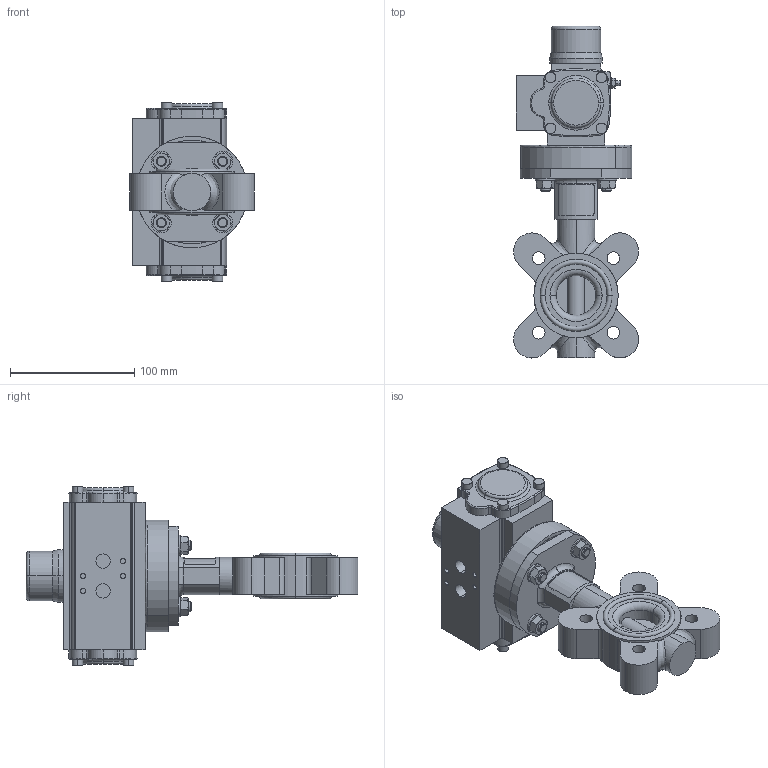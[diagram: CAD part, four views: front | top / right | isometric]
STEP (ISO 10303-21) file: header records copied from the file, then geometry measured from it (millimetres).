
FILE_DESCRIPTION (( 'STEP AP214' ), '1' );
FILE_NAME ('67710.step', '2020-10-26T07:27:50', ( '' ), ( '' ), 'SwSTEP 2.0', 'SolidWorks 2019', '' );
FILE_SCHEMA (( 'AUTOMOTIVE_DESIGN' ));
Length unit declared in the file: millimetre
Products named in the file (10): TL20-0025_M01; 67710; 6kt-Mu DIN 934_M8; Flanschadapter F07-F05; 6kt-Schr DIN 933_M8x30; Zyl-Schr In-6kt DIN 912_M6x16; 67335_15x15x2 - L=18; Achtkantreduktion 14-11 mm; DA0020-V14_01; U-Scheibe DIN 125 A_M8
Assembly tree (21 placements, depth 2):
  67710
    TL20-0025_M01
    Flanschadapter F07-F05
    Achtkantreduktion 14-11 mm
    DA0020-V14_01
    6kt-Schr DIN 933_M8x30  x4
    U-Scheibe DIN 125 A_M8  x4
    67335_15x15x2 - L=18
    6kt-Mu DIN 934_M8  x4
    Zyl-Schr In-6kt DIN 912_M6x16  x4
Bounding box: 100.65 x 267.33 x 144.8 mm (x, y, z)
Volume: 976739.7 mm3; surface area: 157470.3 mm2
Topology: 22 solids, 22 shells, 954 faces, 2345 edges, 1467 vertices
Faces by surface type: plane 439, cylinder 327, cone 105, torus 59, bspline 24
Entity records: 25837 total; most frequent: CARTESIAN_POINT 5572, DIRECTION 3929, ORIENTED_EDGE 3622, EDGE_CURVE 1811, AXIS2_PLACEMENT_3D 1523, VERTEX_POINT 1164, VECTOR 883, LINE 883
